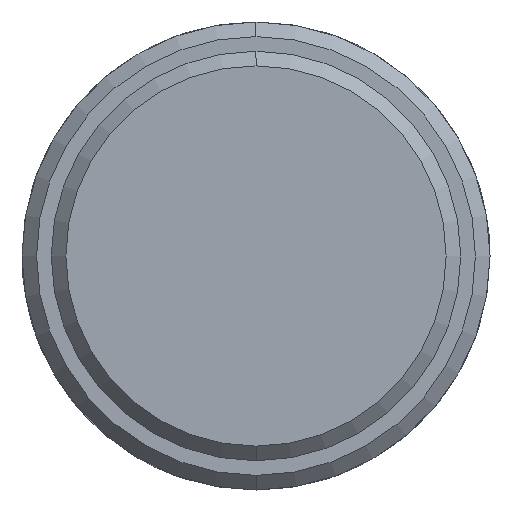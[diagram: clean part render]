
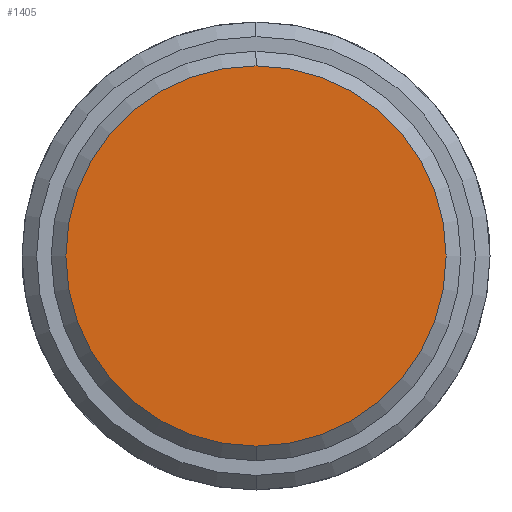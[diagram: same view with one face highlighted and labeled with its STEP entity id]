
A CAD part, left-side view. The second image highlights one B-rep face of the part: STEP entity #1405.
In plain terms, the highlighted planar face has unit normal (-1, 0, 0).
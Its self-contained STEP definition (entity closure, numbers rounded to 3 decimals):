
#1337=CARTESIAN_POINT('Vertex',(-16.,0.,-13.)) ;
#1340=CARTESIAN_POINT('Axis2P3D Location',(-16.,0.,0.)) ;
#1344=CARTESIAN_POINT('Vertex',(-16.,13.,0.)) ;
#1347=CARTESIAN_POINT('Axis2P3D Location',(-16.,0.,0.)) ;
#1351=CARTESIAN_POINT('Vertex',(-16.,0.,13.)) ;
#1373=CARTESIAN_POINT('Axis2P3D Location',(-16.,0.,0.)) ;
#1377=CARTESIAN_POINT('Vertex',(-16.,-13.,0.)) ;
#1380=CARTESIAN_POINT('Axis2P3D Location',(-16.,0.,0.)) ;
#1394=CARTESIAN_POINT('Axis2P3D Location',(-16.,0.,0.)) ;
#1341=DIRECTION('Axis2P3D Direction',(1.,0.,-0.)) ;
#1348=DIRECTION('Axis2P3D Direction',(1.,0.,-0.)) ;
#1374=DIRECTION('Axis2P3D Direction',(1.,0.,-0.)) ;
#1381=DIRECTION('Axis2P3D Direction',(1.,0.,-0.)) ;
#1395=DIRECTION('Axis2P3D Direction',(1.,0.,-0.)) ;
#1396=DIRECTION('Axis2P3D XDirection',(-0.,0.,-1.)) ;
#1342=AXIS2_PLACEMENT_3D('Circle Axis2P3D',#1340,#1341,$) ;
#1349=AXIS2_PLACEMENT_3D('Circle Axis2P3D',#1347,#1348,$) ;
#1375=AXIS2_PLACEMENT_3D('Circle Axis2P3D',#1373,#1374,$) ;
#1382=AXIS2_PLACEMENT_3D('Circle Axis2P3D',#1380,#1381,$) ;
#1397=AXIS2_PLACEMENT_3D('Plane Axis2P3D',#1394,#1395,#1396) ;
#1400=ORIENTED_EDGE('',*,*,#1346,.F.) ;
#1401=ORIENTED_EDGE('',*,*,#1384,.F.) ;
#1402=ORIENTED_EDGE('',*,*,#1379,.F.) ;
#1403=ORIENTED_EDGE('',*,*,#1353,.F.) ;
#1405=ADVANCED_FACE('357-20X56X90',(#1404),#1398,.F.) ;
#1343=CIRCLE('generated circle',#1342,13.) ;
#1350=CIRCLE('generated circle',#1349,13.) ;
#1376=CIRCLE('generated circle',#1375,13.) ;
#1383=CIRCLE('generated circle',#1382,13.) ;
#1346=EDGE_CURVE('',#1338,#1345,#1343,.T.) ;
#1353=EDGE_CURVE('',#1345,#1352,#1350,.T.) ;
#1379=EDGE_CURVE('',#1352,#1378,#1376,.T.) ;
#1384=EDGE_CURVE('',#1378,#1338,#1383,.T.) ;
#1399=EDGE_LOOP('',(#1400,#1401,#1402,#1403)) ;
#1404=FACE_OUTER_BOUND('',#1399,.T.) ;
#1398=PLANE('Plane',#1397) ;
#1338=VERTEX_POINT('',#1337) ;
#1345=VERTEX_POINT('',#1344) ;
#1352=VERTEX_POINT('',#1351) ;
#1378=VERTEX_POINT('',#1377) ;
